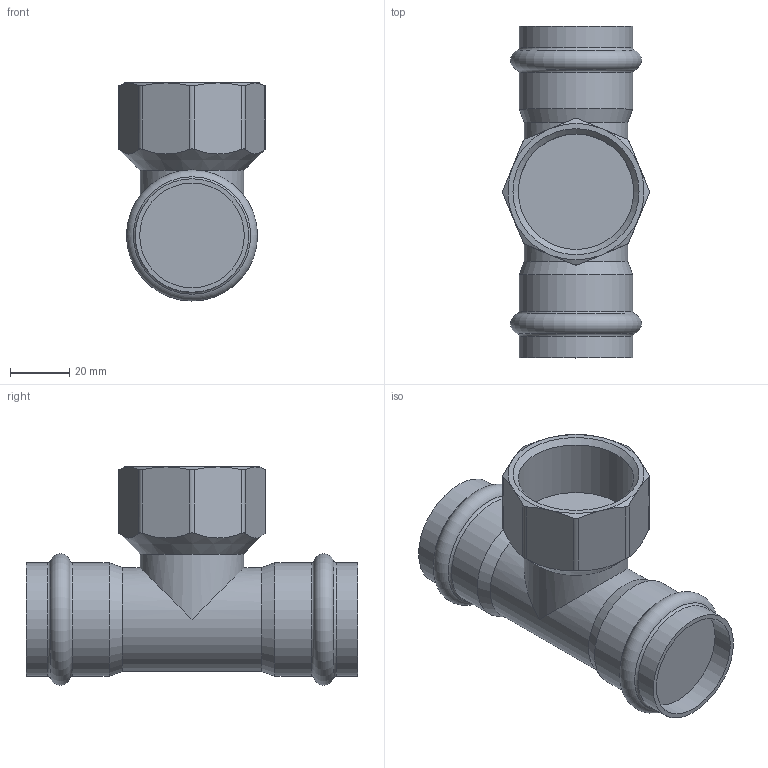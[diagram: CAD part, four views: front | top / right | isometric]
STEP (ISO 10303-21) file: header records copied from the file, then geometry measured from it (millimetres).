
FILE_DESCRIPTION(('STEP AP203'), '1');
FILE_NAME('VTi.932.I.350735', '', ('UNSPECIFIED'), ('UNSPECIFIED'), 'C3D Converter', 'C3D Toolkit', '');
FILE_SCHEMA(('CONFIG_CONTROL_DESIGN'));
Length unit declared in the file: millimetre
Bounding box: 49.46 x 112 x 73.64 mm (x, y, z)
Volume: 139283.3 mm3; surface area: 26640.4 mm2
Topology: 1 solids, 1 shells, 49 faces, 111 edges, 67 vertices
Faces by surface type: cylinder 17, plane 14, cone 12, torus 6
Full cylindrical faces by diameter (mm): 35 x2, 35.3 x2, 38.3 x4, 38.953 x1
Entity records: 2467 total; most frequent: CARTESIAN_POINT 1482, ORIENTED_EDGE 182, DIRECTION 176, EDGE_CURVE 91, AXIS2_PLACEMENT_3D 80, EDGE_LOOP 72, VERTEX_POINT 67, ADVANCED_FACE 49
